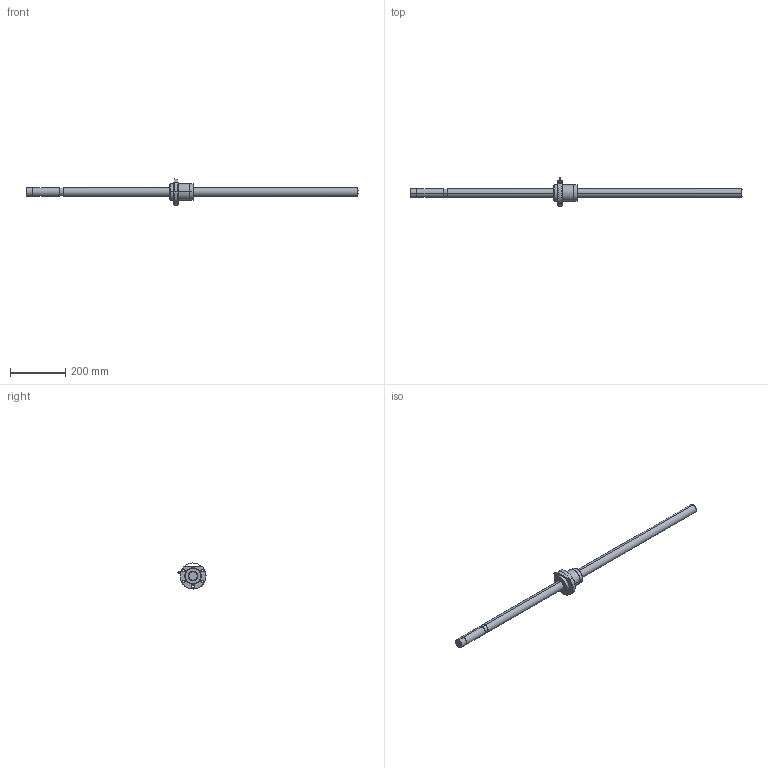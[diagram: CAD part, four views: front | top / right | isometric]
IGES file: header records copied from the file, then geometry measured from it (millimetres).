
Global section: file name: No Iges File Name specified; native system: AutoDesk Inventor R10; preprocessor: AutoDesk Inventor Iges Exporter R10; author: No Author specified; organization: No Organization specified; date: 20101224.134657; units: millimetre
Bounding box: 1200 x 101.33 x 93.98 mm (x, y, z)
Surface area: 163505.9 mm2 (no closed solid volume)
Topology: 0 solids, 0 shells, 72 faces, 474 edges, 470 vertices
Faces by surface type: bspline 72
